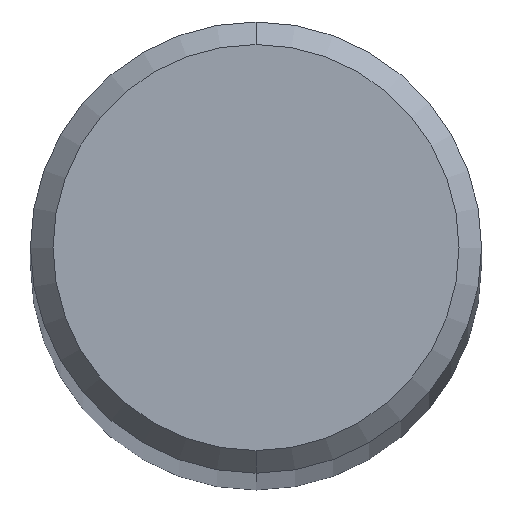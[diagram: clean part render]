
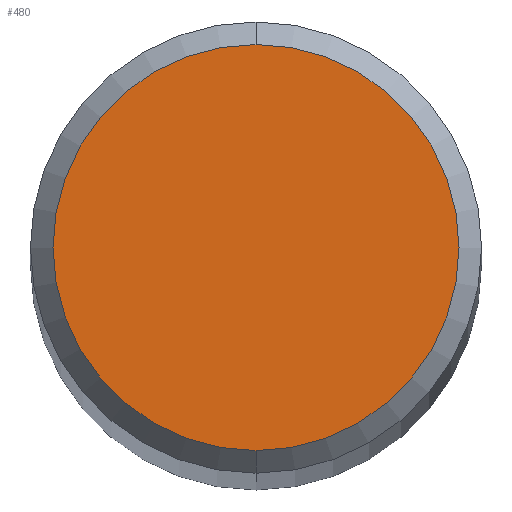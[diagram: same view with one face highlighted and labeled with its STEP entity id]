
A CAD part, top view. The second image highlights one B-rep face of the part: STEP entity #480.
In plain terms, the highlighted planar face has unit normal (0, 0, 1).
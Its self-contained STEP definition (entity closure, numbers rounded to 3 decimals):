
#242=VERTEX_POINT('',#628);
#354=VERTEX_POINT('',#751);
#430=EDGE_CURVE('',#354,#242,#834,.T.);
#480=ADVANCED_FACE('',(#891),#892,.T.);
#492=EDGE_CURVE('',#242,#354,#904,.T.);
#628=CARTESIAN_POINT('',(0.0,0.9,0.0));
#751=CARTESIAN_POINT('',(0.,-0.9,0.0));
#834=CIRCLE('',#1480,0.9);
#891=FACE_OUTER_BOUND('',#1566,.T.);
#892=PLANE('',#1567);
#904=CIRCLE('',#1583,0.9);
#1480=AXIS2_PLACEMENT_3D('',#2027,#2028,#2029);
#1566=EDGE_LOOP('',(#2108,#2109));
#1567=AXIS2_PLACEMENT_3D('',#2110,#2111,#2112);
#1583=AXIS2_PLACEMENT_3D('',#2122,#2123,#2124);
#2027=CARTESIAN_POINT('',(0.0,0.0,0.0));
#2028=DIRECTION('',(0.0,0.0,-1.0));
#2029=DIRECTION('',(0.0,1.0,0.0));
#2108=ORIENTED_EDGE('',*,*,#492,.F.);
#2109=ORIENTED_EDGE('',*,*,#430,.F.);
#2110=CARTESIAN_POINT('',(0.0,0.45,0.0));
#2111=DIRECTION('',(-0.0,0.0,1.0));
#2112=DIRECTION('',(0.0,-1.0,0.0));
#2122=CARTESIAN_POINT('',(0.0,0.0,0.0));
#2123=DIRECTION('',(0.0,0.0,-1.0));
#2124=DIRECTION('',(0.0,1.0,0.0));
